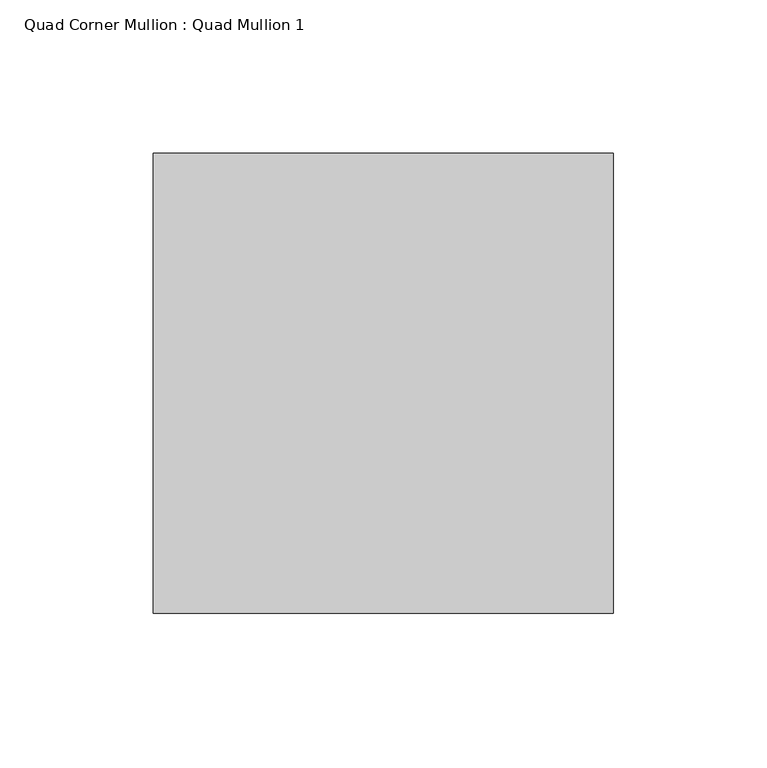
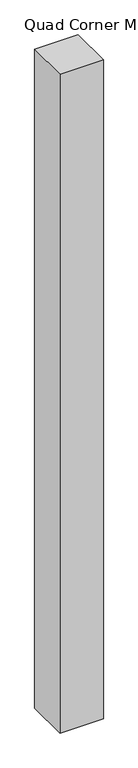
"""IFC4 building model written with IfcOpenShell, lengths in millimetres: member geometry, Quad Corner Mullion : Quad Mullion 1."""

from ifc_helpers import new_model, si_unit, frame, origin, place, context, project, spatial, polyline, outline, extrude, source, transform, mapped, element, save


def quad_corner_mullion_quad_mullion_1_7e3d86e0(model_context):
    return source(origin(), model_context, "Body", "SweptSolid", [
        extrude(outline(polyline([(75.0, 75.0), (75.0, -75.0), (-75.0, -75.0), (-75.0, 75.0), (75.0, 75.0)])), frame((0.0, 0.0, -2400.0), z_axis=(0.0, 0.0, 1.0), x_axis=(1.0, 0.0, 0.0)), (0.0, 0.0, 1.0), 2400.0),
    ])


if __name__ == "__main__":
    model = new_model("IFC4")
    model_context = context("Model", 3, world=origin())
    ifc_project = project(units=[si_unit("LENGTHUNIT", "METRE", prefix="MILLI")], contexts=[model_context])
    site = spatial("IfcSite", under=ifc_project)
    building = spatial("IfcBuilding", under=site)
    placement = place(None, origin())
    quad_corner_mullion_quad_mullion_1_shape = quad_corner_mullion_quad_mullion_1_7e3d86e0(model_context)
    element("IfcMember", 1, ObjectType="Quad Corner Mullion : Quad Mullion 1", at=placement, inside=building, context=model_context, shape_type="MappedRepresentation", body=[
        mapped(quad_corner_mullion_quad_mullion_1_shape, transform((0.0, 0.0, 0.0), x_axis=(1.0, 0.0, 0.0), y_axis=(0.0, 1.0, 0.0), z_axis=(0.0, 0.0, 1.0))),
    ])
    save(model, "model.ifc")
